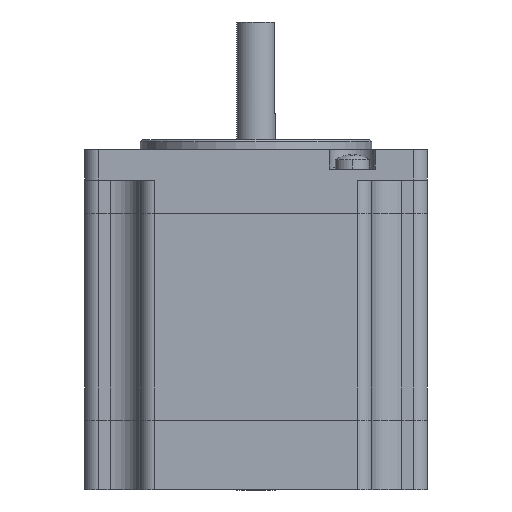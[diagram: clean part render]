
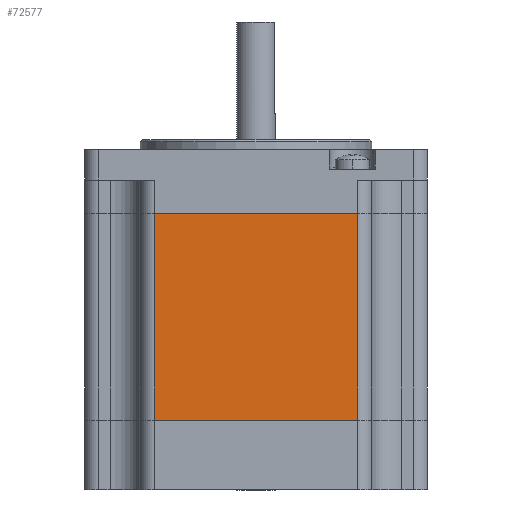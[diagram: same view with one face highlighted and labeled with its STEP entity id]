
A CAD part, front view. The second image highlights one B-rep face of the part: STEP entity #72577.
In plain terms, the highlighted planar face has unit normal (0, -1, 0).
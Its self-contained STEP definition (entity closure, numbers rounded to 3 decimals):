
#14531 = CARTESIAN_POINT ( 'NONE',  ( 16.7, -28.2, 19. ) ) ;
#14533 = CARTESIAN_POINT ( 'NONE',  ( -16.7, -28.2, 19. ) ) ;
#14555 = CARTESIAN_POINT ( 'NONE',  ( 16.7, -28.2, 53. ) ) ;
#14556 = CARTESIAN_POINT ( 'NONE',  ( -16.7, -28.2, 53. ) ) ;
#29305 = VECTOR ( 'NONE', #30513, 1000. ) ;
#29345 = VECTOR ( 'NONE', #30651, 1000. ) ;
#29346 = VECTOR ( 'NONE', #30656, 1000. ) ;
#29348 = VECTOR ( 'NONE', #30660, 1000. ) ;
#29691 = LINE ( 'NONE', #30511, #29305 ) ;
#29703 = LINE ( 'NONE', #30649, #29345 ) ;
#29704 = LINE ( 'NONE', #30654, #29346 ) ;
#29705 = LINE ( 'NONE', #30658, #29348 ) ;
#30511 = CARTESIAN_POINT ( 'NONE',  ( -19., -28.2, 19. ) ) ;
#30513 = DIRECTION ( 'NONE',  ( 1., 0., 0. ) ) ;
#30649 = CARTESIAN_POINT ( 'NONE',  ( 0., -28.2, 53. ) ) ;
#30651 = DIRECTION ( 'NONE',  ( 1., 0., 0. ) ) ;
#30654 = CARTESIAN_POINT ( 'NONE',  ( 16.7, -28.2, 122.091 ) ) ;
#30656 = DIRECTION ( 'NONE',  ( 0., 0., -1. ) ) ;
#30658 = CARTESIAN_POINT ( 'NONE',  ( -16.7, -28.2, 122.091 ) ) ;
#30660 = DIRECTION ( 'NONE',  ( 0., 0., 1. ) ) ;
#49483 = FACE_OUTER_BOUND ( 'NONE', #64463, .T. ) ;
#51816 = PLANE ( 'NONE',  #52565 ) ;
#51817 = CARTESIAN_POINT ( 'NONE',  ( -19., -28.2, 0. ) ) ;
#51818 = DIRECTION ( 'NONE',  ( 0., -1., 0. ) ) ;
#51819 = DIRECTION ( 'NONE',  ( 0., 0., -1. ) ) ;
#52565 = AXIS2_PLACEMENT_3D ( 'NONE', #51817, #51818, #51819 ) ;
#61041 = ORIENTED_EDGE ( 'NONE', *, *, #71048, .F. ) ;
#61042 = ORIENTED_EDGE ( 'NONE', *, *, #71049, .F. ) ;
#61043 = ORIENTED_EDGE ( 'NONE', *, *, #71047, .F. ) ;
#61044 = ORIENTED_EDGE ( 'NONE', *, *, #71022, .T. ) ;
#61637 = VERTEX_POINT ( 'NONE', #14531 ) ;
#61639 = VERTEX_POINT ( 'NONE', #14533 ) ;
#61661 = VERTEX_POINT ( 'NONE', #14555 ) ;
#61662 = VERTEX_POINT ( 'NONE', #14556 ) ;
#64463 = EDGE_LOOP ( 'NONE', ( #61041, #61043, #61042, #61044 ) ) ;
#71022 = EDGE_CURVE ( 'NONE', #61639, #61637, #29691, .T. ) ;
#71047 = EDGE_CURVE ( 'NONE', #61662, #61661, #29703, .T. ) ;
#71048 = EDGE_CURVE ( 'NONE', #61661, #61637, #29704, .T. ) ;
#71049 = EDGE_CURVE ( 'NONE', #61639, #61662, #29705, .T. ) ;
#72577 = ADVANCED_FACE ( 'NONE', ( #49483 ), #51816, .T. ) ;
